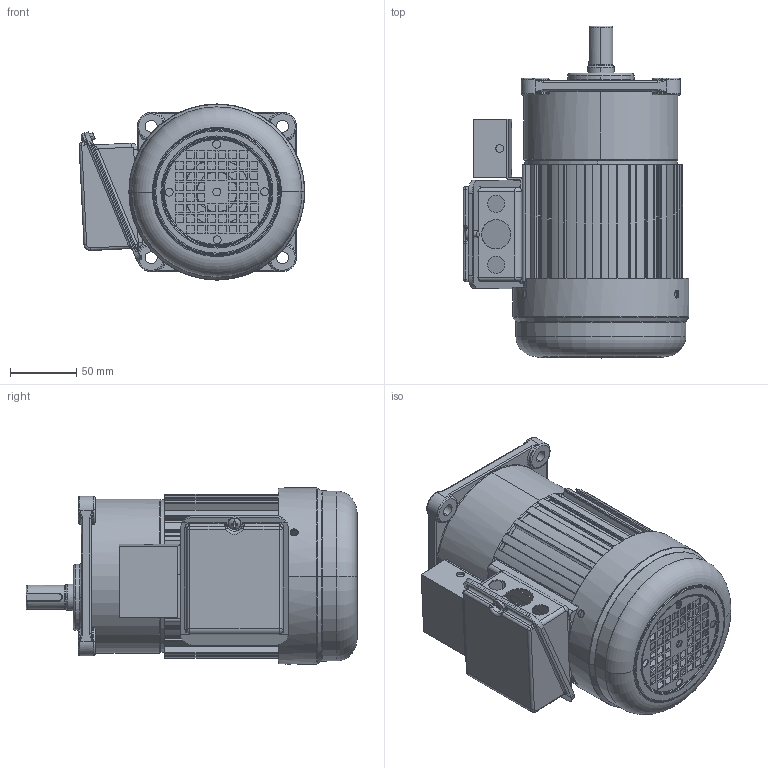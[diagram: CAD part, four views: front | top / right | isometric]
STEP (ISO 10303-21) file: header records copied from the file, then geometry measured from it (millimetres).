
FILE_DESCRIPTION (( 'STEP AP203' ), '1' );
FILE_NAME ('等眈100W蕾宒湍价陬.STEP', '2020-04-23T02:09:01', ( 'china' ), ( 'china' ), 'SwSTEP 2.0', 'SolidWorks 2019', '' );
FILE_SCHEMA (( 'CONFIG_CONTROL_DESIGN' ));
Length unit declared in the file: millimetre
Products named in the file (5): 淕霜ん; 等眈100W蕾宒湍价陬; 等眈100W1#蕾宒; 100W棠憤迖殤; 100W价陬瑞欶
Assembly tree (4 placements, depth 2):
  等眈100W蕾宒湍价陬
    等眈100W1#蕾宒
    100W棠憤迖殤
    100W价陬瑞欶
    淕霜ん
Bounding box: 170.07 x 250 x 132.6 mm (x, y, z)
Volume: 1251094.9 mm3; surface area: 322981.4 mm2
Topology: 8 solids, 8 shells, 998 faces, 2696 edges, 1723 vertices
Faces by surface type: plane 415, cylinder 396, bspline 96, torus 56, cone 29, sphere 6
Entity records: 38700 total; most frequent: CARTESIAN_POINT 12730, ORIENTED_EDGE 5354, DIRECTION 5345, EDGE_CURVE 2677, AXIS2_PLACEMENT_3D 1943, VERTEX_POINT 1723, VECTOR 1459, LINE 1459
